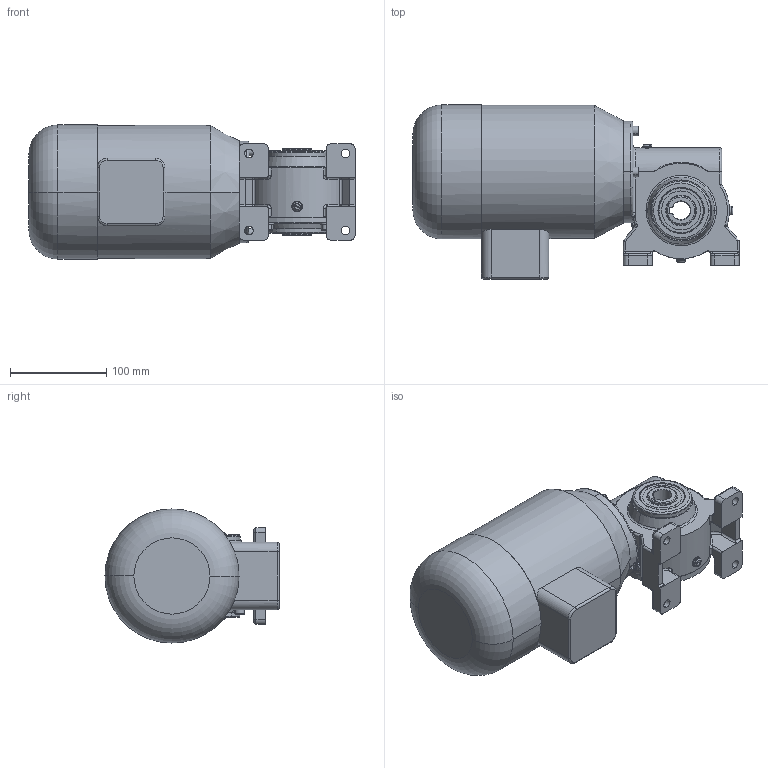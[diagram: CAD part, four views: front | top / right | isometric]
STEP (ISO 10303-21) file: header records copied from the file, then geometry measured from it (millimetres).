
FILE_DESCRIPTION (( 'STEP AP214' ), '1' );
FILE_NAME ('SN9SHH_250W_Drehstrom-Motor_B.STEP', '2021-05-10T10:34:16', ( '' ), ( '' ), 'SwSTEP 2.0', 'SolidWorks 2019', '' );
FILE_SCHEMA (( 'AUTOMOTIVE_DESIGN' ));
Length unit declared in the file: millimetre
Products named in the file (1): SN9SHH_250W_Drehstrom-Motor_B
Bounding box: 338 x 180.5 x 139 mm (x, y, z)
Surface area: 212826.2 mm2 (no closed solid volume)
Topology: 0 solids, 28 shells, 447 faces, 1198 edges, 747 vertices
Faces by surface type: cylinder 159, plane 148, torus 69, cone 47, bspline 22, sphere 2
Entity records: 20581 total; most frequent: CARTESIAN_POINT 4619, DIRECTION 2463, ORIENTED_EDGE 2106, EDGE_CURVE 1170, AXIS2_PLACEMENT_3D 986, VERTEX_POINT 745, CIRCLE 560, EDGE_LOOP 507
